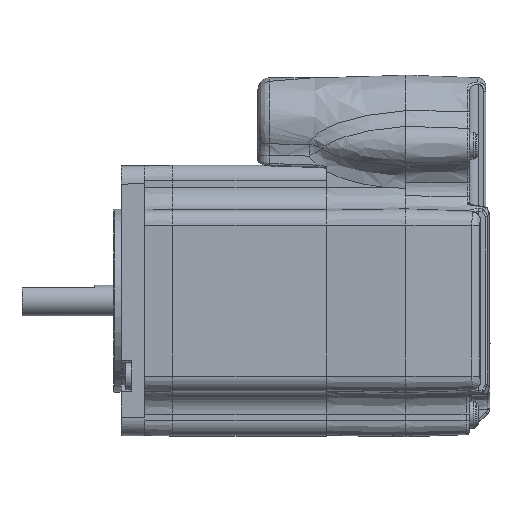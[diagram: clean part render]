
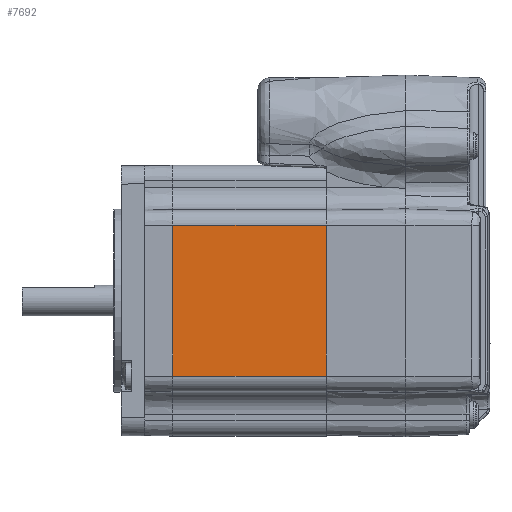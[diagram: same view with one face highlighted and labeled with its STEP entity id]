
A CAD part, left-side view. The second image highlights one B-rep face of the part: STEP entity #7692.
In plain terms, the highlighted planar face has unit normal (-1, 0, 0).
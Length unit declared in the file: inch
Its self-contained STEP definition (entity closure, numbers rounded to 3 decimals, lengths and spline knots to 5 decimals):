
#4470=EDGE_CURVE('MDrive23Plus,  Double Stack, P1 (IO PWR, P)  and  P2 (RD or RL 10-Pin)[3]',#12893,#12921,#13471,.T.);
#4683=EDGE_CURVE('MDrive23Plus,  Double Stack, P1 (IO PWR, P)  and  P2 (RD or RL 10-Pin)[3]',#10997,#12893,#13711,.T.);
#7692=ADVANCED_FACE('MDrive23Plus,  Double Stack, P1 (IO PWR, P)  and  P2 (RD or RL 10-Pin)[3]',(#17074),#17075,.T.);
#8323=EDGE_CURVE('MDrive23Plus,  Double Stack, P1 (IO PWR, P)  and  P2 (RD or RL 10-Pin)[3]',#12921,#12044,#17779,.T.);
#10997=VERTEX_POINT('',#20732);
#12044=VERTEX_POINT('',#21884);
#12291=EDGE_CURVE('MDrive23Plus,  Double Stack, P1 (IO PWR, P)  and  P2 (RD or RL 10-Pin)[3]',#10997,#12044,#22157,.F.);
#12893=VERTEX_POINT('',#22818);
#12921=VERTEX_POINT('',#22848);
#13471=LINE('',#24001,#24002);
#13711=LINE('',#25085,#25086);
#17074=FACE_OUTER_BOUND('',#36660,.T.);
#17075=PLANE('',#36661);
#17779=LINE('',#38515,#38516);
#20732=CARTESIAN_POINT('',(-1.96149,2.83297,0.56486));
#21884=CARTESIAN_POINT('',(-1.96149,2.83297,-0.67063));
#22157=LINE('',#53336,#53337);
#22818=CARTESIAN_POINT('',(-1.96149,1.57521,0.56486));
#22848=CARTESIAN_POINT('',(-1.96149,1.57521,-0.67063));
#24001=CARTESIAN_POINT('',(-1.96149,1.57521,-0.73244));
#24002=VECTOR('',#56328,1.33373);
#25085=CARTESIAN_POINT('',(-1.96149,1.57521,0.56486));
#25086=VECTOR('',#56537,1.0);
#36660=EDGE_LOOP('',(#59295,#59296,#59297,#59298));
#36661=AXIS2_PLACEMENT_3D('',#59299,#59300,#59301);
#38515=CARTESIAN_POINT('',(-1.96149,1.57521,-0.67063));
#38516=VECTOR('',#59867,1.0);
#53336=CARTESIAN_POINT('',(-1.96149,2.83297,0.28689));
#53337=VECTOR('',#63486,1.0);
#56328=DIRECTION('',(0.0,0.0,-1.0));
#56537=DIRECTION('',(0.0,-1.0,0.0));
#59295=ORIENTED_EDGE('',*,*,#8323,.F.);
#59296=ORIENTED_EDGE('',*,*,#4470,.F.);
#59297=ORIENTED_EDGE('',*,*,#4683,.F.);
#59298=ORIENTED_EDGE('',*,*,#12291,.T.);
#59299=CARTESIAN_POINT('',(-1.96149,1.57521,0.62667));
#59300=DIRECTION('',(-1.0,0.0,0.0));
#59301=DIRECTION('',(0.0,0.0,1.0));
#59867=DIRECTION('',(0.0,1.0,0.0));
#63486=DIRECTION('',(0.0,0.0,1.0));
